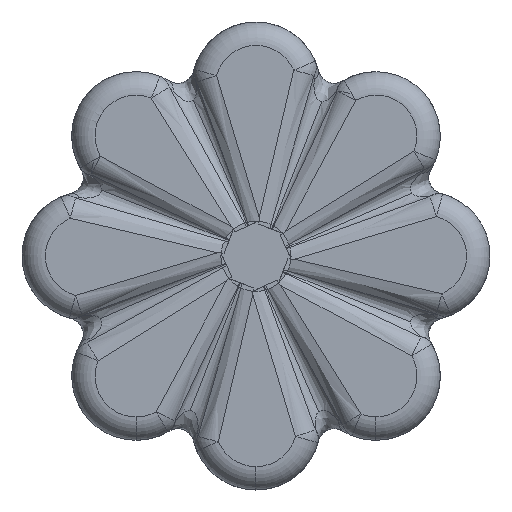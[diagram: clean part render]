
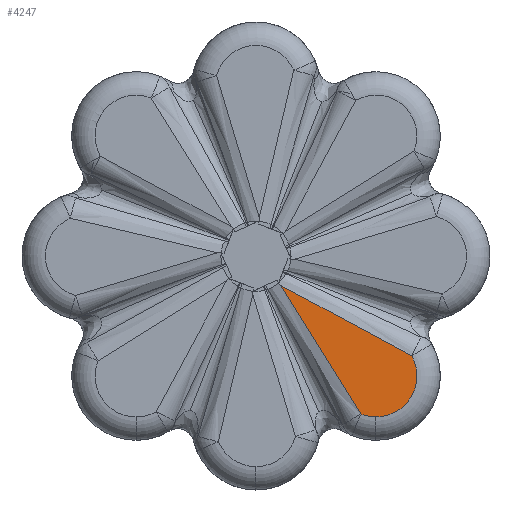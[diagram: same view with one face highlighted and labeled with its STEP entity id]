
A CAD part, front view. The second image highlights one B-rep face of the part: STEP entity #4247.
In plain terms, the highlighted planar face has unit normal (0, -1, 0) as drawn and (0, 0, 1) by its records, which use the part's own axes.
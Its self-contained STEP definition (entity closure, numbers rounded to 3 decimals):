
#84 = CARTESIAN_POINT ( 'NONE',  ( 83.239, 63.387, 250. ) ) ;
#94 = CARTESIAN_POINT ( 'NONE',  ( 40.093, 45.696, 250. ) ) ;
#202 = EDGE_CURVE ( 'NONE', #3081, #6919, #4616, .T. ) ;
#300 = CARTESIAN_POINT ( 'NONE',  ( -2.266, 88.786, 250. ) ) ;
#311 = DIRECTION ( 'NONE',  ( 1., 0., 0. ) ) ;
#477 = CARTESIAN_POINT ( 'NONE',  ( 49.613, 37.435, 250. ) ) ;
#556 = CARTESIAN_POINT ( 'NONE',  ( 27.03, 22.699, 250. ) ) ;
#738 = CARTESIAN_POINT ( 'NONE',  ( 45.039, 55.05, 250. ) ) ;
#770 = CARTESIAN_POINT ( 'NONE',  ( 54.707, 73.874, 250. ) ) ;
#795 = CARTESIAN_POINT ( 'NONE',  ( 32.431, 31.798, 250. ) ) ;
#908 = EDGE_CURVE ( 'NONE', #6919, #5017, #1653, .T. ) ;
#990 = ORIENTED_EDGE ( 'NONE', *, *, #202, .T. ) ;
#1147 = DIRECTION ( 'NONE',  ( 0., 0., 1. ) ) ;
#1200 = CARTESIAN_POINT ( 'NONE',  ( 29.235, 24.253, 250. ) ) ;
#1271 = CARTESIAN_POINT ( 'NONE',  ( 81.982, 56.873, 250. ) ) ;
#1653 = B_SPLINE_CURVE_WITH_KNOTS ( 'NONE', 3,
 ( #7852, #770, #5862, #3951, #738, #94, #4030, #2096, #795, #3404, #6562, #2148 ),
 .UNSPECIFIED., .F., .F.,
 ( 4, 2, 2, 2, 2, 4 ),
 ( 0., 0.016, 0.032, 0.048, 0.056, 0.063 ),
 .UNSPECIFIED. ) ;
#1703 = AXIS2_PLACEMENT_3D ( 'NONE', #2356, #5450, #311 ) ;
#1776 = CARTESIAN_POINT ( 'NONE',  ( 45.034, 34.586, 250. ) ) ;
#1930 = AXIS2_PLACEMENT_3D ( 'NONE', #300, #4791, #7379 ) ;
#1958 = CIRCLE ( 'NONE', #1703, 17.5 ) ;
#2096 = CARTESIAN_POINT ( 'NONE',  ( 33.732, 34.101, 250. ) ) ;
#2148 = CARTESIAN_POINT ( 'NONE',  ( 27.03, 22.699, 250. ) ) ;
#2150 = EDGE_CURVE ( 'NONE', #6765, #3081, #1958, .T. ) ;
#2356 = CARTESIAN_POINT ( 'NONE',  ( 65.739, 63.387, 250. ) ) ;
#2825 = AXIS2_PLACEMENT_3D ( 'NONE', #3739, #1147, #6255 ) ;
#2839 = EDGE_CURVE ( 'NONE', #5017, #6765, #6634, .T. ) ;
#3079 = CARTESIAN_POINT ( 'NONE',  ( 35.96, 28.753, 250. ) ) ;
#3081 = VERTEX_POINT ( 'NONE', #84 ) ;
#3404 = CARTESIAN_POINT ( 'NONE',  ( 29.778, 27.221, 250. ) ) ;
#3739 = CARTESIAN_POINT ( 'NONE',  ( 65.739, 63.387, 250. ) ) ;
#3951 = CARTESIAN_POINT ( 'NONE',  ( 47.477, 59.745, 250. ) ) ;
#4030 = CARTESIAN_POINT ( 'NONE',  ( 37.587, 41.036, 250. ) ) ;
#4246 = ORIENTED_EDGE ( 'NONE', *, *, #2150, .T. ) ;
#4247 = ADVANCED_FACE ( 'NONE', ( #6669 ), #6633, .T. ) ;
#4509 = ORIENTED_EDGE ( 'NONE', *, *, #2839, .T. ) ;
#4616 = CIRCLE ( 'NONE', #2825, 17.5 ) ;
#4791 = DIRECTION ( 'NONE',  ( 0., 0., 1. ) ) ;
#5017 = VERTEX_POINT ( 'NONE', #7582 ) ;
#5450 = DIRECTION ( 'NONE',  ( 0., 0., 1. ) ) ;
#5862 = CARTESIAN_POINT ( 'NONE',  ( 52.311, 69.157, 250. ) ) ;
#5898 = CARTESIAN_POINT ( 'NONE',  ( 57.087, 78.599, 250. ) ) ;
#6234 = CARTESIAN_POINT ( 'NONE',  ( 58.81, 43.074, 250. ) ) ;
#6255 = DIRECTION ( 'NONE',  ( 1., 0., 0. ) ) ;
#6562 = CARTESIAN_POINT ( 'NONE',  ( 28.427, 24.946, 250. ) ) ;
#6633 = PLANE ( 'NONE',  #1930 ) ;
#6634 = B_SPLINE_CURVE_WITH_KNOTS ( 'NONE', 3,
 ( #556, #1200, #6861, #3079, #8144, #1776, #477, #6234, #7443, #7551, #7496, #8123 ),
 .UNSPECIFIED., .F., .F.,
 ( 4, 2, 2, 2, 2, 4 ),
 ( 0.003, 0.011, 0.019, 0.035, 0.051, 0.067 ),
 .UNSPECIFIED. ) ;
#6669 = FACE_OUTER_BOUND ( 'NONE', #7208, .T. ) ;
#6765 = VERTEX_POINT ( 'NONE', #1271 ) ;
#6861 = CARTESIAN_POINT ( 'NONE',  ( 31.467, 25.768, 250. ) ) ;
#6919 = VERTEX_POINT ( 'NONE', #5898 ) ;
#7208 = EDGE_LOOP ( 'NONE', ( #4246, #990, #8058, #4509 ) ) ;
#7379 = DIRECTION ( 'NONE',  ( 1., 0., 0. ) ) ;
#7443 = CARTESIAN_POINT ( 'NONE',  ( 63.428, 45.861, 250. ) ) ;
#7496 = CARTESIAN_POINT ( 'NONE',  ( 77.331, 54.141, 250. ) ) ;
#7551 = CARTESIAN_POINT ( 'NONE',  ( 72.688, 51.394, 250. ) ) ;
#7582 = CARTESIAN_POINT ( 'NONE',  ( 27.03, 22.699, 250. ) ) ;
#7852 = CARTESIAN_POINT ( 'NONE',  ( 57.087, 78.599, 250. ) ) ;
#8058 = ORIENTED_EDGE ( 'NONE', *, *, #908, .T. ) ;
#8123 = CARTESIAN_POINT ( 'NONE',  ( 81.982, 56.873, 250. ) ) ;
#8144 = CARTESIAN_POINT ( 'NONE',  ( 38.221, 30.223, 250. ) ) ;
